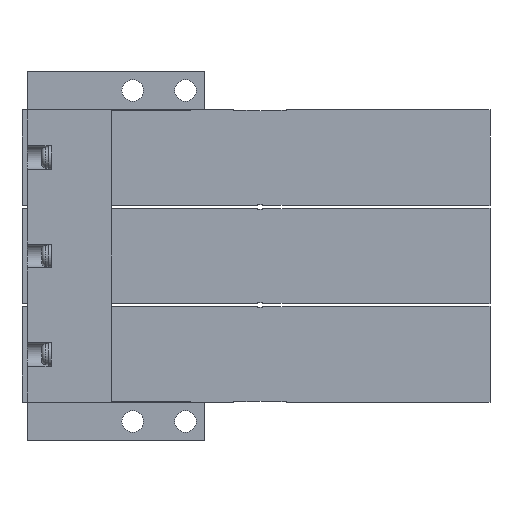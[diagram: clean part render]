
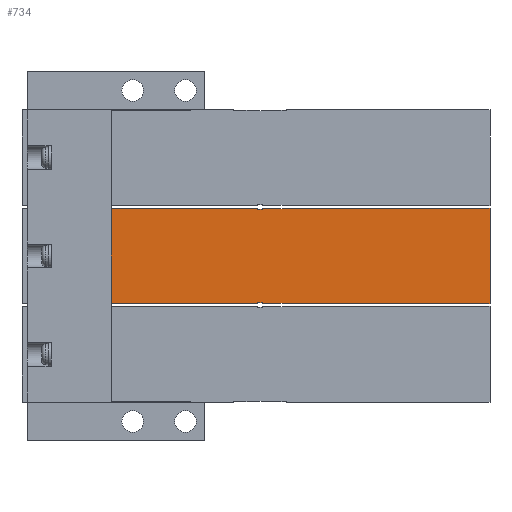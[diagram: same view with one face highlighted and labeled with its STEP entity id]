
A CAD part, front view. The second image highlights one B-rep face of the part: STEP entity #734.
In plain terms, the highlighted planar face has unit normal (0, -1, 0).
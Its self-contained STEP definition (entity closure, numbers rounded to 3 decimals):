
#734=ADVANCED_FACE('',(#1593),#1594,.F.);
#1593=FACE_OUTER_BOUND('',#2657,.T.);
#1594=PLANE('',#2658);
#2657=EDGE_LOOP('',(#5739,#5740,#5741,#5742,#5743,#5744,#5745,#5746,#5747,#5748,#5749,#5750,#5751,#5752,#5753,#5754,#5755,#5756,#5757,#5758,#5759,#5760,#5761,#5762));
#2658=AXIS2_PLACEMENT_3D('',#5763,#5764,#5765);
#5739=ORIENTED_EDGE('',*,*,#7670,.F.);
#5740=ORIENTED_EDGE('',*,*,#7671,.T.);
#5741=ORIENTED_EDGE('',*,*,#7672,.T.);
#5742=ORIENTED_EDGE('',*,*,#7611,.F.);
#5743=ORIENTED_EDGE('',*,*,#7569,.F.);
#5744=ORIENTED_EDGE('',*,*,#7599,.T.);
#5745=ORIENTED_EDGE('',*,*,#7630,.F.);
#5746=ORIENTED_EDGE('',*,*,#7673,.T.);
#5747=ORIENTED_EDGE('',*,*,#7674,.F.);
#5748=ORIENTED_EDGE('',*,*,#7675,.T.);
#5749=ORIENTED_EDGE('',*,*,#7545,.T.);
#5750=ORIENTED_EDGE('',*,*,#7676,.T.);
#5751=ORIENTED_EDGE('',*,*,#7677,.T.);
#5752=ORIENTED_EDGE('',*,*,#7527,.F.);
#5753=ORIENTED_EDGE('',*,*,#7678,.T.);
#5754=ORIENTED_EDGE('',*,*,#7614,.F.);
#5755=ORIENTED_EDGE('',*,*,#7590,.T.);
#5756=ORIENTED_EDGE('',*,*,#7679,.T.);
#5757=ORIENTED_EDGE('',*,*,#7530,.T.);
#5758=ORIENTED_EDGE('',*,*,#7680,.T.);
#5759=ORIENTED_EDGE('',*,*,#7497,.T.);
#5760=ORIENTED_EDGE('',*,*,#7537,.F.);
#5761=ORIENTED_EDGE('',*,*,#7681,.F.);
#5762=ORIENTED_EDGE('',*,*,#7682,.F.);
#5763=CARTESIAN_POINT('',(18.6,0.0,10.0));
#5764=DIRECTION('',(-0.0,1.0,0.0));
#5765=DIRECTION('',(1.0,0.0,0.0));
#7497=EDGE_CURVE('',#9189,#9196,#9198,.T.);
#7527=EDGE_CURVE('',#9252,#9254,#9255,.T.);
#7530=EDGE_CURVE('',#9259,#9260,#9261,.T.);
#7537=EDGE_CURVE('',#9271,#9196,#9273,.T.);
#7545=EDGE_CURVE('',#9289,#9287,#9290,.T.);
#7569=EDGE_CURVE('',#9333,#9335,#9336,.T.);
#7590=EDGE_CURVE('',#9365,#9370,#9372,.T.);
#7599=EDGE_CURVE('',#9333,#9384,#9386,.T.);
#7611=EDGE_CURVE('',#9335,#9404,#9405,.T.);
#7614=EDGE_CURVE('',#9365,#9409,#9410,.T.);
#7630=EDGE_CURVE('',#9430,#9384,#9432,.T.);
#7670=EDGE_CURVE('',#9493,#9494,#9495,.T.);
#7671=EDGE_CURVE('',#9493,#9496,#9497,.T.);
#7672=EDGE_CURVE('',#9496,#9404,#9498,.T.);
#7673=EDGE_CURVE('',#9430,#9499,#9500,.T.);
#7674=EDGE_CURVE('',#9501,#9499,#9502,.T.);
#7675=EDGE_CURVE('',#9501,#9289,#9503,.T.);
#7676=EDGE_CURVE('',#9287,#9504,#9505,.T.);
#7677=EDGE_CURVE('',#9504,#9254,#9506,.T.);
#7678=EDGE_CURVE('',#9252,#9409,#9507,.T.);
#7679=EDGE_CURVE('',#9370,#9259,#9508,.T.);
#7680=EDGE_CURVE('',#9260,#9189,#9509,.T.);
#7681=EDGE_CURVE('',#9510,#9271,#9511,.T.);
#7682=EDGE_CURVE('',#9494,#9510,#9512,.T.);
#9189=VERTEX_POINT('',#11898);
#9196=VERTEX_POINT('',#11909);
#9198=LINE('',#11912,#11913);
#9252=VERTEX_POINT('',#11992);
#9254=VERTEX_POINT('',#11995);
#9255=LINE('',#11996,#11997);
#9259=VERTEX_POINT('',#12003);
#9260=VERTEX_POINT('',#12004);
#9261=LINE('',#12005,#12006);
#9271=VERTEX_POINT('',#12021);
#9273=LINE('',#12024,#12025);
#9287=VERTEX_POINT('',#12044);
#9289=VERTEX_POINT('',#12047);
#9290=LINE('',#12048,#12049);
#9333=VERTEX_POINT('',#12110);
#9335=VERTEX_POINT('',#12113);
#9336=LINE('',#12114,#12115);
#9365=VERTEX_POINT('',#12185);
#9370=VERTEX_POINT('',#12192);
#9372=LINE('',#12195,#12196);
#9384=VERTEX_POINT('',#12215);
#9386=LINE('',#12218,#12219);
#9404=VERTEX_POINT('',#12248);
#9405=LINE('',#12249,#12250);
#9409=VERTEX_POINT('',#12256);
#9410=LINE('',#12257,#12258);
#9430=VERTEX_POINT('',#12292);
#9432=LINE('',#12295,#12296);
#9493=VERTEX_POINT('',#12414);
#9494=VERTEX_POINT('',#12415);
#9495=LINE('',#12416,#12417);
#9496=VERTEX_POINT('',#12418);
#9497=LINE('',#12419,#12420);
#9498=LINE('',#12421,#12422);
#9499=VERTEX_POINT('',#12423);
#9500=LINE('',#12424,#12425);
#9501=VERTEX_POINT('',#12426);
#9502=LINE('',#12427,#12428);
#9503=LINE('',#12429,#12430);
#9504=VERTEX_POINT('',#12431);
#9505=LINE('',#12432,#12433);
#9506=LINE('',#12434,#12435);
#9507=LINE('',#12436,#12437);
#9508=LINE('',#12438,#12439);
#9509=LINE('',#12440,#12441);
#9510=VERTEX_POINT('',#12442);
#9511=LINE('',#12443,#12444);
#9512=LINE('',#12445,#12446);
#11898=CARTESIAN_POINT('',(55.1,0.0,-10.0));
#11909=CARTESIAN_POINT('',(97.6,0.0,-10.0));
#11912=CARTESIAN_POINT('',(18.6,0.0,-10.0));
#11913=VECTOR('',#13993,1.0);
#11992=CARTESIAN_POINT('',(44.1,0.0,-9.9));
#11995=CARTESIAN_POINT('',(44.1,0.0,-10.0));
#11996=CARTESIAN_POINT('',(44.1,0.0,-9.9));
#11997=VECTOR('',#14029,1.0);
#12003=CARTESIAN_POINT('',(50.1,0.0,-9.9));
#12004=CARTESIAN_POINT('',(55.1,0.0,-9.9));
#12005=CARTESIAN_POINT('',(44.1,0.0,-9.9));
#12006=VECTOR('',#14032,1.0);
#12021=CARTESIAN_POINT('',(97.6,0.0,10.0));
#12024=CARTESIAN_POINT('',(97.6,0.0,10.0));
#12025=VECTOR('',#14039,1.0);
#12044=CARTESIAN_POINT('',(35.1,0.0,-9.9));
#12047=CARTESIAN_POINT('',(18.6,0.0,-9.9));
#12048=CARTESIAN_POINT('',(18.6,0.0,-9.9));
#12049=VECTOR('',#14049,1.0);
#12110=CARTESIAN_POINT('',(44.1,0.0,9.9));
#12113=CARTESIAN_POINT('',(49.1,0.0,9.9));
#12114=CARTESIAN_POINT('',(44.1,0.0,9.9));
#12115=VECTOR('',#14081,1.0);
#12185=CARTESIAN_POINT('',(49.1,0.0,-9.8));
#12192=CARTESIAN_POINT('',(50.1,0.0,-9.8));
#12195=CARTESIAN_POINT('',(18.6,0.0,-9.8));
#12196=VECTOR('',#14105,1.0);
#12215=CARTESIAN_POINT('',(44.1,0.0,10.0));
#12218=CARTESIAN_POINT('',(44.1,0.0,9.9));
#12219=VECTOR('',#14114,1.0);
#12248=CARTESIAN_POINT('',(49.1,0.0,9.8));
#12249=CARTESIAN_POINT('',(49.1,0.0,10.0));
#12250=VECTOR('',#14126,1.0);
#12256=CARTESIAN_POINT('',(49.1,0.0,-9.9));
#12257=CARTESIAN_POINT('',(49.1,0.0,10.0));
#12258=VECTOR('',#14129,1.0);
#12292=CARTESIAN_POINT('',(35.1,0.0,10.0));
#12295=CARTESIAN_POINT('',(18.6,0.0,10.0));
#12296=VECTOR('',#14145,1.0);
#12414=CARTESIAN_POINT('',(50.1,0.0,9.9));
#12415=CARTESIAN_POINT('',(55.1,0.0,9.9));
#12416=CARTESIAN_POINT('',(44.1,0.0,9.9));
#12417=VECTOR('',#14200,1.0);
#12418=CARTESIAN_POINT('',(50.1,0.0,9.8));
#12419=CARTESIAN_POINT('',(50.1,0.0,10.0));
#12420=VECTOR('',#14201,1.0);
#12421=CARTESIAN_POINT('',(18.6,0.0,9.8));
#12422=VECTOR('',#14202,1.0);
#12423=CARTESIAN_POINT('',(35.1,0.0,9.9));
#12424=CARTESIAN_POINT('',(35.1,0.0,10.1));
#12425=VECTOR('',#14203,1.0);
#12426=CARTESIAN_POINT('',(18.6,0.0,9.9));
#12427=CARTESIAN_POINT('',(18.6,0.0,9.9));
#12428=VECTOR('',#14204,1.0);
#12429=CARTESIAN_POINT('',(18.6,0.0,10.0));
#12430=VECTOR('',#14205,1.0);
#12431=CARTESIAN_POINT('',(35.1,0.0,-10.0));
#12432=CARTESIAN_POINT('',(35.1,0.0,-9.9));
#12433=VECTOR('',#14206,1.0);
#12434=CARTESIAN_POINT('',(18.6,0.0,-10.0));
#12435=VECTOR('',#14207,1.0);
#12436=CARTESIAN_POINT('',(44.1,0.0,-9.9));
#12437=VECTOR('',#14208,1.0);
#12438=CARTESIAN_POINT('',(50.1,0.0,10.0));
#12439=VECTOR('',#14209,1.0);
#12440=CARTESIAN_POINT('',(55.1,0.0,-9.9));
#12441=VECTOR('',#14210,1.0);
#12442=CARTESIAN_POINT('',(55.1,0.0,10.0));
#12443=CARTESIAN_POINT('',(18.6,0.0,10.0));
#12444=VECTOR('',#14211,1.0);
#12445=CARTESIAN_POINT('',(55.1,0.0,9.9));
#12446=VECTOR('',#14212,1.0);
#13993=DIRECTION('',(1.0,0.0,0.0));
#14029=DIRECTION('',(0.0,0.0,-1.0));
#14032=DIRECTION('',(1.0,0.0,0.0));
#14039=DIRECTION('',(0.0,0.0,-1.0));
#14049=DIRECTION('',(1.0,0.0,0.0));
#14081=DIRECTION('',(1.0,0.0,0.0));
#14105=DIRECTION('',(1.0,0.0,0.0));
#14114=DIRECTION('',(0.0,0.0,1.0));
#14126=DIRECTION('',(0.0,0.0,-1.0));
#14129=DIRECTION('',(0.0,0.0,-1.0));
#14145=DIRECTION('',(1.0,0.0,0.0));
#14200=DIRECTION('',(1.0,0.0,0.0));
#14201=DIRECTION('',(0.0,0.0,-1.0));
#14202=DIRECTION('',(-1.0,0.0,0.0));
#14203=DIRECTION('',(0.0,0.0,-1.0));
#14204=DIRECTION('',(1.0,0.0,0.0));
#14205=DIRECTION('',(0.0,0.0,-1.0));
#14206=DIRECTION('',(0.0,0.0,-1.0));
#14207=DIRECTION('',(1.0,0.0,0.0));
#14208=DIRECTION('',(1.0,0.0,0.0));
#14209=DIRECTION('',(0.0,0.0,-1.0));
#14210=DIRECTION('',(0.0,0.0,-1.0));
#14211=DIRECTION('',(1.0,0.0,0.0));
#14212=DIRECTION('',(0.0,0.0,1.0));
